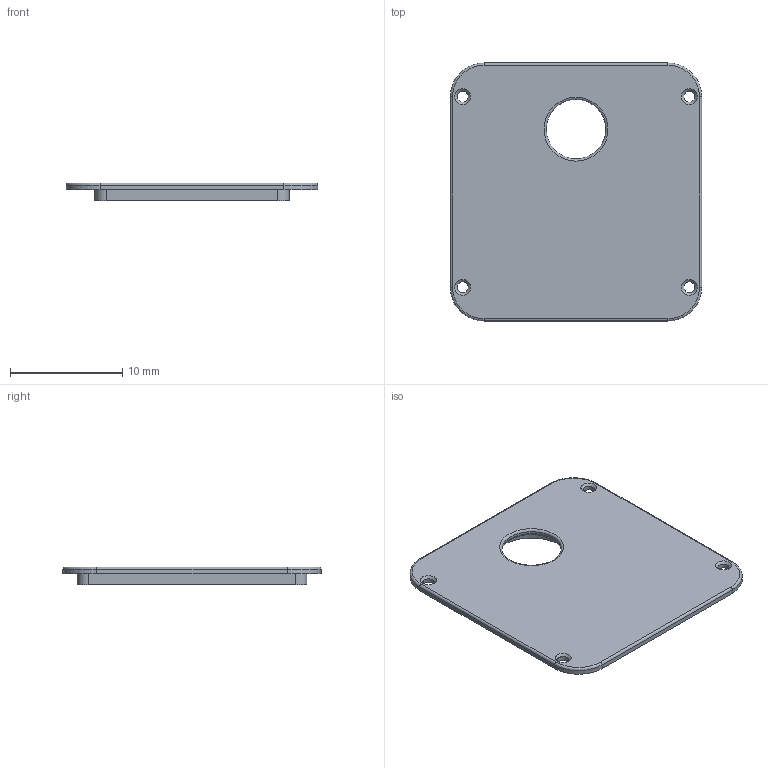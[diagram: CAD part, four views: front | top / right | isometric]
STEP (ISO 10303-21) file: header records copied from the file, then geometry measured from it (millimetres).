
FILE_DESCRIPTION(/* description */ (''),/* implementation_level */ '2;1');
FILE_NAME(/* name */ 'C:\Users\HP\Desktop\deckel bec platine.stp',/* time_stamp */ '2024-12-05T17:25:05+01:00',/* author */ ('HP'),/* organization */ (''),/* preprocessor_version */ 'ST-DEVELOPER v18.1',/* originating_system */ 'Autodesk Inventor 2021',/* authorisation */ '');
FILE_SCHEMA (('AUTOMOTIVE_DESIGN { 1 0 10303 214 3 1 1 }'));
Length unit declared in the file: millimetre
Products named in the file (1): deckel bec platine
Bounding box: 22.4 x 23 x 1.6 mm (x, y, z)
Volume: 600 mm3; surface area: 1118.8 mm2
Topology: 1 solids, 1 shells, 40 faces, 108 edges, 72 vertices
Faces by surface type: cylinder 18, plane 12, torus 6, cone 4
Full cylindrical faces by diameter (mm): 1 x4, 5.3 x1, 7.3 x1
Entity records: 1364 total; most frequent: DIRECTION 252, CARTESIAN_POINT 221, ORIENTED_EDGE 216, EDGE_CURVE 108, AXIS2_PLACEMENT_3D 103, VERTEX_POINT 72, CIRCLE 62, EDGE_LOOP 52
